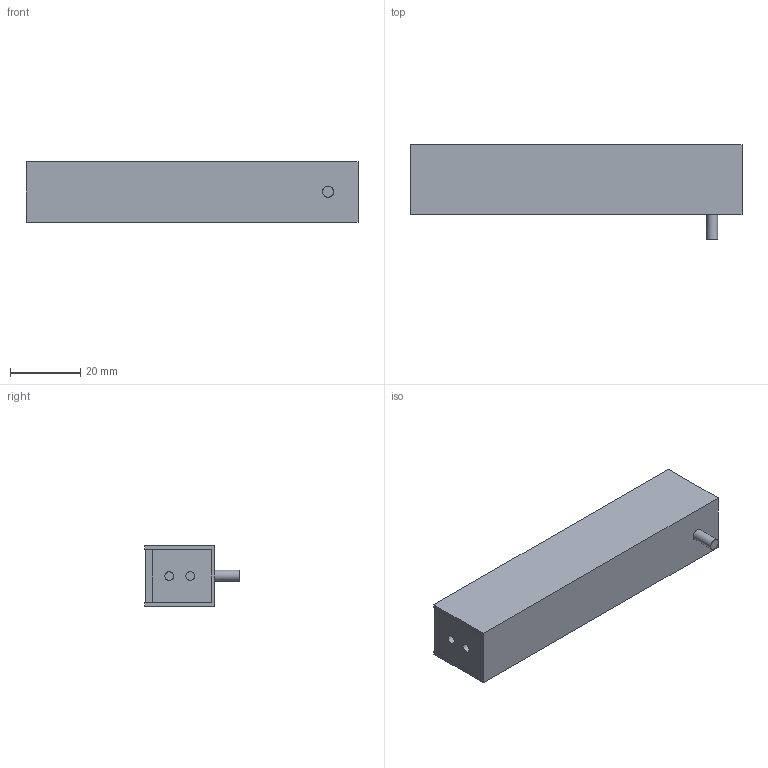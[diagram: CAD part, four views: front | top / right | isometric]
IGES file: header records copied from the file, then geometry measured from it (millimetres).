
Global section: file name: 153-00756_LB 86 xD-24-KFL5; native system: Autodesk Inventor 2018; preprocessor: unknown; author: ss; date: 20180726.093110; units: millimetre
Bounding box: 94.5 x 27 x 17.2 mm (x, y, z)
Volume: 31560.2 mm3; surface area: 15119 mm2
Topology: 1 solids, 1 shells, 38 faces, 96 edges, 68 vertices
Faces by surface type: bspline 38
